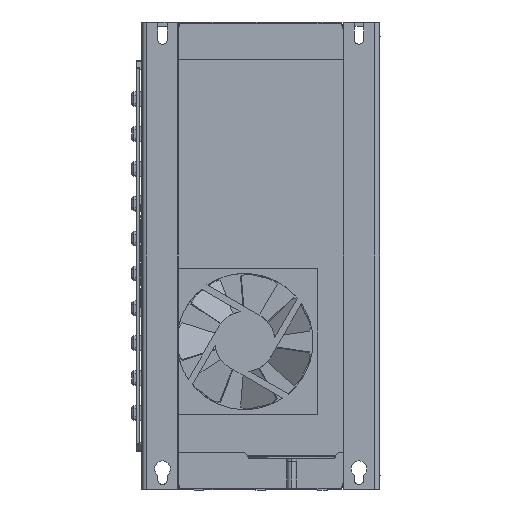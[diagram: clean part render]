
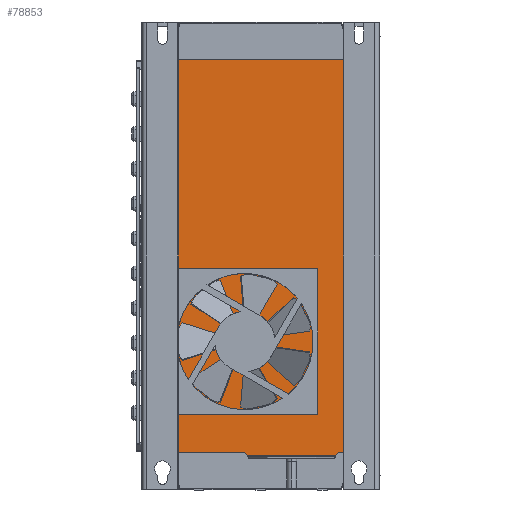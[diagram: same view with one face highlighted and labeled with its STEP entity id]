
A CAD part, front view. The second image highlights one B-rep face of the part: STEP entity #78853.
In plain terms, the highlighted planar face has unit normal (0, -1, 0).
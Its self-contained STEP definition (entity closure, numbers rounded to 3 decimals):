
#4589 = VERTEX_POINT ( 'NONE', #65857 ) ;
#4595 = VERTEX_POINT ( 'NONE', #65821 ) ;
#4620 = VERTEX_POINT ( 'NONE', #65795 ) ;
#4691 = VERTEX_POINT ( 'NONE', #65655 ) ;
#4720 = VERTEX_POINT ( 'NONE', #65606 ) ;
#4745 = VERTEX_POINT ( 'NONE', #65521 ) ;
#4795 = VERTEX_POINT ( 'NONE', #64974 ) ;
#4858 = VERTEX_POINT ( 'NONE', #56173 ) ;
#5081 = VERTEX_POINT ( 'NONE', #56215 ) ;
#5116 = VERTEX_POINT ( 'NONE', #56136 ) ;
#5159 = EDGE_LOOP ( 'NONE', ( #43724, #43717, #43714, #43707, #43701, #43696, #43685, #43678, #43667, #43658 ) ) ;
#22495 = EDGE_CURVE ( 'NONE', #4691, #4858, #92603, .T. ) ;
#22660 = EDGE_CURVE ( 'NONE', #4745, #4589, #92818, .T. ) ;
#23092 = EDGE_CURVE ( 'NONE', #4858, #4795, #93254, .T. ) ;
#23155 = EDGE_CURVE ( 'NONE', #4795, #5081, #93316, .T. ) ;
#23717 = EDGE_CURVE ( 'NONE', #4720, #5116, #89021, .T. ) ;
#24608 = EDGE_CURVE ( 'NONE', #4691, #4595, #90329, .T. ) ;
#24695 = EDGE_CURVE ( 'NONE', #4745, #5081, #90502, .T. ) ;
#24714 = EDGE_CURVE ( 'NONE', #4620, #5116, #90567, .T. ) ;
#24893 = EDGE_CURVE ( 'NONE', #4589, #4620, #91126, .T. ) ;
#24927 = EDGE_CURVE ( 'NONE', #4595, #4720, #113549, .T. ) ;
#40585 = AXIS2_PLACEMENT_3D ( 'NONE', #91273, #91274, #91275 ) ;
#40879 = AXIS2_PLACEMENT_3D ( 'NONE', #115009, #115011, #115013 ) ;
#43658 = ORIENTED_EDGE ( 'NONE', *, *, #24893, .F. ) ;
#43667 = ORIENTED_EDGE ( 'NONE', *, *, #24714, .F. ) ;
#43678 = ORIENTED_EDGE ( 'NONE', *, *, #23717, .T. ) ;
#43685 = ORIENTED_EDGE ( 'NONE', *, *, #24927, .T. ) ;
#43696 = ORIENTED_EDGE ( 'NONE', *, *, #24608, .T. ) ;
#43701 = ORIENTED_EDGE ( 'NONE', *, *, #22495, .F. ) ;
#43707 = ORIENTED_EDGE ( 'NONE', *, *, #23092, .F. ) ;
#43714 = ORIENTED_EDGE ( 'NONE', *, *, #23155, .F. ) ;
#43717 = ORIENTED_EDGE ( 'NONE', *, *, #24695, .T. ) ;
#43724 = ORIENTED_EDGE ( 'NONE', *, *, #22660, .F. ) ;
#46509 = FACE_OUTER_BOUND ( 'NONE', #5159, .T. ) ;
#56136 = CARTESIAN_POINT ( 'NONE',  ( -71., -36.2, -124. ) ) ;
#56173 = CARTESIAN_POINT ( 'NONE',  ( 50.279, -36.2, -124. ) ) ;
#56215 = CARTESIAN_POINT ( 'NONE',  ( 47.404, -36.2, -125.979 ) ) ;
#57898 = AXIS2_PLACEMENT_3D ( 'NONE', #70922, #70923, #70924 ) ;
#64974 = CARTESIAN_POINT ( 'NONE',  ( 47.681, -36.2, -125.5 ) ) ;
#65521 = CARTESIAN_POINT ( 'NONE',  ( -8.404, -36.2, -125.979 ) ) ;
#65606 = CARTESIAN_POINT ( 'NONE',  ( -71., -36.2, 124. ) ) ;
#65655 = CARTESIAN_POINT ( 'NONE',  ( 71., -36.2, -124. ) ) ;
#65795 = CARTESIAN_POINT ( 'NONE',  ( -11.279, -36.2, -124. ) ) ;
#65821 = CARTESIAN_POINT ( 'NONE',  ( 71., -36.2, 124. ) ) ;
#65857 = CARTESIAN_POINT ( 'NONE',  ( -8.681, -36.2, -125.5 ) ) ;
#70914 = PLANE ( 'NONE',  #57898 ) ;
#70922 = CARTESIAN_POINT ( 'NONE',  ( 71., -36.2, 124. ) ) ;
#70923 = DIRECTION ( 'NONE',  ( 0., -1., 0. ) ) ;
#70924 = DIRECTION ( 'NONE',  ( 0., 0., 1. ) ) ;
#78853 = ADVANCED_FACE ( 'NONE', ( #46509 ), #70914, .T. ) ;
#84194 = CARTESIAN_POINT ( 'NONE',  ( 50.279, -36.2, -124. ) ) ;
#84199 = DIRECTION ( 'NONE',  ( -1., 0., 0. ) ) ;
#89021 = LINE ( 'NONE', #116731, #89029 ) ;
#89029 = VECTOR ( 'NONE', #116733, 1000. ) ;
#89975 = CARTESIAN_POINT ( 'NONE',  ( 1.134, -36.2, -142.5 ) ) ;
#89979 = DIRECTION ( 'NONE',  ( -0.5, 0., 0.866 ) ) ;
#90329 = LINE ( 'NONE', #113732, #90335 ) ;
#90335 = VECTOR ( 'NONE', #113734, 1000. ) ;
#90502 = LINE ( 'NONE', #114037, #90508 ) ;
#90508 = VECTOR ( 'NONE', #114040, 1000. ) ;
#90567 = LINE ( 'NONE', #114142, #90573 ) ;
#90573 = VECTOR ( 'NONE', #114146, 1000. ) ;
#91126 = CIRCLE ( 'NONE', #40879, 3. ) ;
#91273 = CARTESIAN_POINT ( 'NONE',  ( 50.279, -36.2, -127. ) ) ;
#91274 = DIRECTION ( 'NONE',  ( 0., -1., 0. ) ) ;
#91275 = DIRECTION ( 'NONE',  ( 1., 0., 0. ) ) ;
#91328 = CARTESIAN_POINT ( 'NONE',  ( 37.866, -36.2, -142.5 ) ) ;
#91330 = DIRECTION ( 'NONE',  ( -0.5, 0., -0.866 ) ) ;
#92603 = LINE ( 'NONE', #84194, #92612 ) ;
#92612 = VECTOR ( 'NONE', #84199, 1000. ) ;
#92818 = LINE ( 'NONE', #89975, #92823 ) ;
#92823 = VECTOR ( 'NONE', #89979, 1000. ) ;
#93254 = CIRCLE ( 'NONE', #40585, 3. ) ;
#93316 = LINE ( 'NONE', #91328, #93320 ) ;
#93320 = VECTOR ( 'NONE', #91330, 1000. ) ;
#111540 = CARTESIAN_POINT ( 'NONE',  ( 71., -36.2, 124. ) ) ;
#111543 = DIRECTION ( 'NONE',  ( -1., 0., 0. ) ) ;
#113549 = LINE ( 'NONE', #111540, #113552 ) ;
#113552 = VECTOR ( 'NONE', #111543, 1000. ) ;
#113732 = CARTESIAN_POINT ( 'NONE',  ( 71., -36.2, -144. ) ) ;
#113734 = DIRECTION ( 'NONE',  ( 0., 0., 1. ) ) ;
#114037 = CARTESIAN_POINT ( 'NONE',  ( 71., -36.2, -125.979 ) ) ;
#114040 = DIRECTION ( 'NONE',  ( 1., 0., 0. ) ) ;
#114142 = CARTESIAN_POINT ( 'NONE',  ( -11.279, -36.2, -124. ) ) ;
#114146 = DIRECTION ( 'NONE',  ( -1., 0., 0. ) ) ;
#115009 = CARTESIAN_POINT ( 'NONE',  ( -11.279, -36.2, -127. ) ) ;
#115011 = DIRECTION ( 'NONE',  ( 0., -1., 0. ) ) ;
#115013 = DIRECTION ( 'NONE',  ( 1., 0., 0. ) ) ;
#116731 = CARTESIAN_POINT ( 'NONE',  ( -71., -36.2, -144. ) ) ;
#116733 = DIRECTION ( 'NONE',  ( 0., 0., -1. ) ) ;
